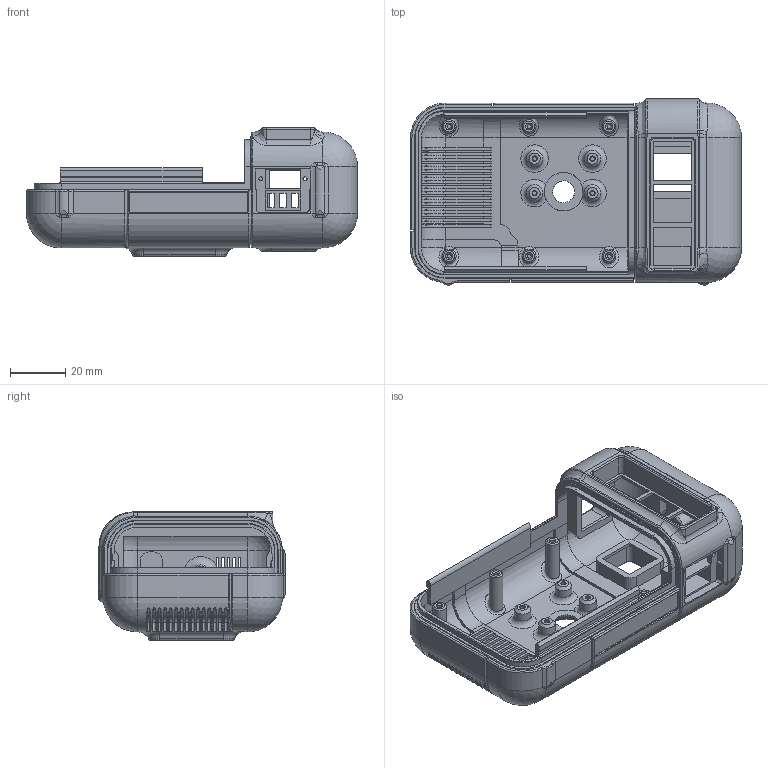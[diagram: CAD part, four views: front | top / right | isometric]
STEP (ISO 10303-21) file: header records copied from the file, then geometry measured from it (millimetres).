
FILE_DESCRIPTION(/* description */ (''),/* implementation_level */ '2;1');
FILE_NAME(/* name */ 'main_body.step',/* time_stamp */ '2026-07-06T12:52:00-05:00',/* author */ (''),/* organization */ (''),/* preprocessor_version */ 'ST-DEVELOPER v20.1',/* originating_system */ 'Autodesk Translation Framework v15.8.0.0',/* authorisation */ '');
FILE_SCHEMA (('AUTOMOTIVE_DESIGN { 1 0 10303 214 3 1 1 }'));
Products named in the file (1): SaturnixLite_Hull
Bounding box: 120 x 67.49 x 46.5 mm (x, y, z)
Volume: 51372.2 mm3; surface area: 48947.3 mm2
Topology: 1 solids, 1 shells, 2356 faces, 6227 edges, 3959 vertices
Faces by surface type: plane 1148, bspline 560, cylinder 427, torus 127, cone 78, sphere 16
Full cylindrical faces by diameter (mm): 1.5 x13, 5 x6, 6 x4, 6.788 x1, 8 x1, 9 x1, 10 x1, 11 x1, 12 x1, 13 x1, 16 x1, 17 x1
Entity records: 88190 total; most frequent: CARTESIAN_POINT 33481, ORIENTED_EDGE 12442, DIRECTION 9729, EDGE_CURVE 6221, VERTEX_POINT 3959, LINE 3815, VECTOR 3815, AXIS2_PLACEMENT_3D 2957
